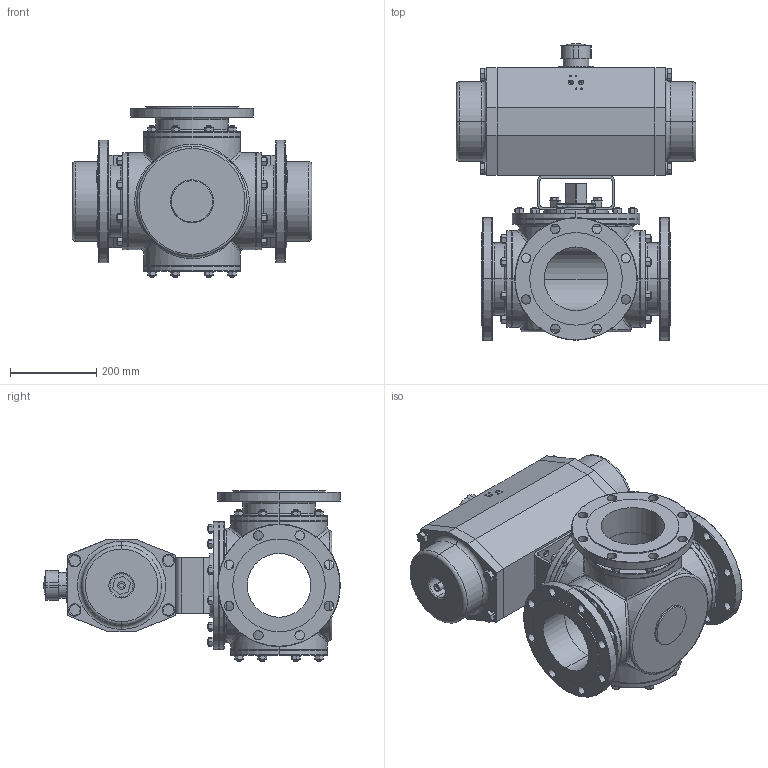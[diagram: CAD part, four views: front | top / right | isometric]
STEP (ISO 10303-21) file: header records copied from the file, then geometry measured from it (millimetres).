
FILE_DESCRIPTION (( 'STEP AP214' ), '1' );
FILE_NAME ('S316F-DN150 AP8.STEP', '2021-06-01T12:43:56', ( '' ), ( '' ), 'SwSTEP 2.0', 'SolidWorks 2018', '' );
FILE_SCHEMA (( 'AUTOMOTIVE_DESIGN' ));
Length unit declared in the file: millimetre
Products named in the file (13): S316F Blind Flange end DN 150; S316F Flange end DN 150; YB18080F14F12; hex nut style 1 gradeab_din_Hexagon Nut ISO 4032 - M12 - D - N; S316F Body DN150 BS; socket head cap screw_din_DIN 912 M12 x 25 --- 25N; S316F-DN150 AP8; AP8_Default<As Machined>; S316F Draadeind M12; S316F Pakkingdrukker DN150; S316F Top Entry DN150; socket set screw cup point_din_DIN 916 - M12 x 40-N; hex head structural bolt_din_DIN 7990 - M12 x 40-NN
Assembly tree (101 placements, depth 2):
  S316F-DN150 AP8
    S316F Body DN150 BS
    socket head cap screw_din_DIN 912 M12 x 25 --- 25N  x2
    S316F Flange end DN 150  x3
    socket set screw cup point_din_DIN 916 - M12 x 40-N  x32
    hex nut style 1 gradeab_din_Hexagon Nut ISO 4032 - M12 - D - N  x44
    S316F Blind Flange end DN 150
    S316F Top Entry DN150
    S316F Draadeind M12  x12
    S316F Pakkingdrukker DN150
    hex head structural bolt_din_DIN 7990 - M12 x 40-NN  x2
    AP8_Default<As Machined>
    YB18080F14F12
Bounding box: 557 x 689.34 x 396.3 mm (x, y, z)
Volume: 42447624.3 mm3; surface area: 2393253.6 mm2
Topology: 112 solids, 112 shells, 2815 faces, 6394 edges, 3755 vertices
Faces by surface type: cone 1090, plane 915, cylinder 712, torus 76, bspline 12, sphere 10
Entity records: 31868 total; most frequent: CARTESIAN_POINT 7524, DIRECTION 4760, ORIENTED_EDGE 4100, EDGE_CURVE 2050, AXIS2_PLACEMENT_3D 1881, VERTEX_POINT 1305, EDGE_LOOP 1083, VECTOR 998
